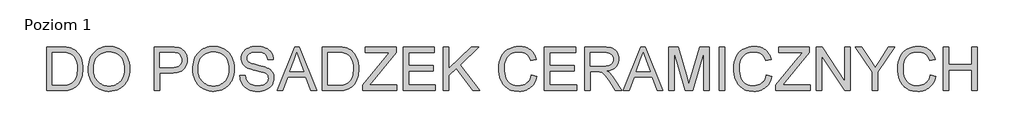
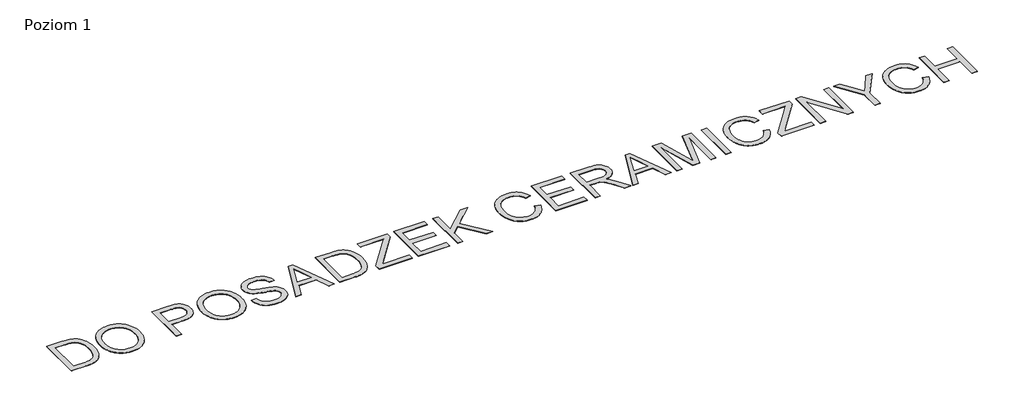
# One storey, part 2 of 4: 1 proxy.
"""IFC4 building model written with IfcOpenShell, lengths in millimetres."""

from ifc_helpers import new_model, si_unit, origin, origin_with_axes, place, context, project, spatial, polyline, outline, extrude, element, save

model = new_model("IFC4")

# Units and contexts
model_context = context("Model", 3, world=origin())
ifc_project = project(units=[si_unit("LENGTHUNIT", "METRE", prefix="MILLI")], contexts=[model_context])

# Site, building, storey
site = spatial("IfcSite", under=ifc_project)
building = spatial("IfcBuilding", under=site)
storey = spatial("IfcBuildingStorey", under=building, Name="Poziom 1", Elevation=0.0)

# Proxy
placement = place(None, origin())
element("IfcBuildingElementProxy", 1, Name="1500 mm Arial", ObjectType="1500 mm Arial", at=placement, inside=storey, context=model_context, shape_type="SweptSolid", body=[
    extrude(outline(polyline([(-126148.713177, 56405.8205168), (-126148.713177, 57881.6414123), (-125639.5982049, 57881.6414123), (-125487.4582213, 57876.3268717), (-125426.7238317, 57869.683696), (-125376.213177, 57860.38325), (-125315.0959603, 57842.8407622), (-125258.5726686, 57819.3982337), (-125206.6433017, 57790.0556643), (-125159.3078598, 57754.8130541), (-125104.6086265, 57702.0279562), (-125057.2506653, 57642.3970093), (-125017.2339763, 57575.9202136), (-124984.5585594, 57502.597569), (-124959.1793762, 57423.1046528), (-124941.0513882, 57338.117042), (-124930.1745955, 57247.6347367), (-124926.5489979, 57151.6577369), (-124929.003595, 57070.081791), (-124936.3673864, 56993.2574046), (-124948.640372, 56921.1845778), (-124965.822552, 56853.8633106), (-124986.8555219, 56791.7214686), (-125010.6808775, 56735.1869172), (-125037.2986189, 56684.2596565), (-125066.708746, 56638.9396866), (-125098.2356816, 56598.6865455), (-125131.2038486, 56562.9597717), (-125165.6132469, 56531.759365), (-125201.4638766, 56505.0853256), (-125239.9154784, 56482.1494799), (-125282.1277933, 56462.1636546), (-125328.1008213, 56445.1278498), (-125377.8345622, 56431.0420653), (-125431.3740547, 56420.0076378), (-125488.7643372, 56412.1259039), (-125550.0054096, 56407.3968636), (-125615.0972721, 56405.8205168), (-126148.713177, 56405.8205168)]), holes=[polyline([(-125964.235565, 56590.2981287), (-125637.7966658, 56590.2981287), (-125566.2080026, 56591.9645525), (-125502.7713043, 56596.9638237), (-125447.4865707, 56605.2959424), (-125400.353802, 56616.9609086), (-125359.5039011, 56631.6659721), (-125323.0677712, 56649.1183829), (-125291.0454123, 56669.318141), (-125263.4368243, 56692.2652463), (-125229.3989935, 56729.2530975), (-125199.3470681, 56772.1184704), (-125173.2810481, 56820.8613648), (-125151.2009335, 56875.4817808), (-125133.6246669, 56936.0923145), (-125121.0701907, 57002.8055623), (-125113.537505, 57075.621524), (-125111.0266098, 57154.5401996), (-125115.9470637, 57261.6417038), (-125130.7084253, 57355.591972), (-125141.7794466, 57397.6353926), (-125155.3106947, 57436.3910042), (-125171.3021699, 57471.8588068), (-125189.7538719, 57504.0388004), (-125231.2455711, 57560.0666688), (-125276.9934067, 57606.0059179), (-125326.9973785, 57641.8565476), (-125381.2574867, 57667.6185578), (-125428.1425438, 57680.5446014), (-125487.3681443, 57689.7774897), (-125558.9342882, 57695.3172227), (-125642.8409755, 57697.1638004), (-125964.235565, 57697.1638004), (-125964.235565, 56590.2981287)])]), origin_with_axes(), (0.0, 0.0, 1.0), 10.0),
    extrude(outline(polyline([(-124742.0713859, 57124.2743414), (-124738.9975097, 57213.3097855), (-124729.775881, 57297.3797373), (-124714.4064999, 57376.4841967), (-124692.8893663, 57450.6231637), (-124665.2244803, 57519.7966384), (-124631.4118418, 57584.0046207), (-124591.4514509, 57643.2471106), (-124545.3433076, 57697.5241082), (-124494.3766382, 57746.0812189), (-124439.8406694, 57788.1640482), (-124381.735401, 57823.772596), (-124320.0608332, 57852.9068624), (-124254.8169659, 57875.5668474), (-124186.003799, 57891.752551), (-124113.6213327, 57901.4639731), (-124037.6695669, 57904.7011138), (-123938.3822389, 57898.6209191), (-123890.6133016, 57891.0206757), (-123844.0941821, 57880.3803349), (-123798.8248804, 57866.6998968), (-123754.8053965, 57849.9793612), (-123712.0357305, 57830.2187284), (-123670.5158822, 57807.4179981), (-123630.8369818, 57781.8980697), (-123593.5901592, 57753.9798422), (-123558.7754146, 57723.6633157), (-123526.3927479, 57690.9484902), (-123496.442159, 57655.8353656), (-123468.923648, 57618.3239421), (-123443.837215, 57578.4142194), (-123421.1828598, 57536.1061978), (-123383.6658064, 57446.1643542), (-123356.8679111, 57350.3675084), (-123340.7891739, 57248.7156602), (-123335.4295949, 57141.2088097), (-123341.0706644, 57032.2832471), (-123357.9938731, 56929.2577253), (-123386.1992209, 56832.1322443), (-123425.6867077, 56740.9068041), (-123449.4276162, 56698.108989), (-123475.5217853, 56657.9909634), (-123503.9692149, 56620.5527273), (-123534.769905, 56585.7942808), (-123567.9238557, 56553.7156238), (-123603.431067, 56524.3167563), (-123641.2915388, 56497.5976784), (-123681.5052712, 56473.5583899), (-123765.9186413, 56433.834451), (-123853.5973013, 56405.460209), (-123944.5412509, 56388.4356637), (-124038.7504904, 56382.7608153), (-124089.9479819, 56384.3287174), (-124139.7717999, 56389.0324236), (-124188.2219442, 56396.8719339), (-124235.2984148, 56407.8472484), (-124281.0012119, 56421.958367), (-124325.3303353, 56439.2052897), (-124368.2857851, 56459.5880166), (-124409.8675613, 56483.1065476), (-124449.5239425, 56509.3358321), (-124486.7032073, 56537.8508194), (-124521.4053557, 56568.6515095), (-124553.6303878, 56601.7379025), (-124583.3783035, 56637.1099983), (-124610.6491028, 56674.767797), (-124635.4427858, 56714.7112985), (-124657.7593523, 56756.9405028), (-124694.645867, 56844.9569513), (-124720.9933775, 56935.5180739), (-124736.8018838, 57028.6238706), (-124742.0713859, 57124.2743414)]), holes=[polyline([(-124557.593774, 57122.4728022), (-124555.2883668, 57059.6047147), (-124548.3721453, 57000.1708112), (-124536.8451095, 56944.1710918), (-124520.7072593, 56891.6055564), (-124499.9585948, 56842.4742051), (-124474.5991159, 56796.7770379), (-124444.6288227, 56754.5140547), (-124410.0477152, 56715.6852556), (-124371.9873851, 56680.8930302), (-124331.5794243, 56650.7397682), (-124288.8238328, 56625.2254696), (-124243.7206105, 56604.3501343), (-124196.2697575, 56588.1137625), (-124146.4712737, 56576.516354), (-124094.3251592, 56569.5579089), (-124039.8314139, 56567.2384272), (-123984.3411923, 56569.5804282), (-123931.3674957, 56576.606431), (-123880.9103242, 56588.3164356), (-123832.9696777, 56604.7104422), (-123787.5455562, 56625.7884506), (-123744.6379598, 56651.5504608), (-123704.2468884, 56681.996473), (-123666.3723421, 56717.1264869), (-123632.044576, 56756.5633055), (-123602.2938454, 56799.9297315), (-123577.1201503, 56847.2257647), (-123556.5234906, 56898.4514053), (-123540.5038665, 56953.6066533), (-123529.0612778, 57012.6915085), (-123522.1957245, 57075.7059711), (-123519.9072068, 57142.650041), (-123523.8255545, 57227.0746708), (-123535.5805977, 57305.9595676), (-123555.1723362, 57379.3047315), (-123582.6007702, 57447.1101623), (-123617.5618899, 57508.4863502), (-123659.7516856, 57562.5437852), (-123709.1701572, 57609.2824673), (-123765.8173048, 57648.7023965), (-123827.9366276, 57679.9928801), (-123893.771625, 57702.3432255), (-123963.3222969, 57715.7534328), (-124036.5886434, 57720.2235019), (-124088.9852844, 57718.0700996), (-124139.5240882, 57711.6098927), (-124188.2050547, 57700.8428812), (-124235.028184, 57685.7690651), (-124279.9934759, 57666.3884444), (-124323.1009306, 57642.7010191), (-124364.350548, 57614.7067892), (-124403.7423281, 57582.4057547), (-124439.8012607, 57545.0716701), (-124471.0523357, 57501.9782899), (-124497.4955529, 57453.1256142), (-124519.1309125, 57398.513643), (-124535.9584144, 57338.1423761), (-124547.9780586, 57272.0118137), (-124555.1898451, 57200.1219558), (-124557.593774, 57122.4728022)])]), origin_with_axes(), (0.0, 0.0, 1.0), 10.0),
    extrude(outline(polyline([(-122505.2803411, 56405.8205168), (-122505.2803411, 57881.6414123), (-121958.3330464, 57881.6414123), (-121830.9642264, 57878.1284109), (-121737.8246508, 57867.5894067), (-121686.4920439, 57856.5212004), (-121639.5056501, 57841.3319732), (-121596.8654697, 57822.0217251), (-121558.5715025, 57798.5904562), (-121524.2184023, 57770.5540027), (-121493.4008227, 57737.428201), (-121466.1187638, 57699.2130512), (-121442.3722255, 57655.9085532), (-121423.1407947, 57608.9446787), (-121409.4040585, 57559.7513995), (-121401.1620167, 57508.3287155), (-121398.4146695, 57454.6766269), (-121400.2696919, 57408.4727767), (-121405.834759, 57364.0817254), (-121415.1098709, 57321.5034729), (-121428.0950275, 57280.7380191), (-121444.7902288, 57241.7853642), (-121465.1954749, 57204.645508), (-121489.3107658, 57169.3184507), (-121517.1361014, 57135.8041922), (-121549.8030735, 57105.2343242), (-121588.443274, 57078.7404387), (-121633.0567029, 57056.3225355), (-121683.64336, 57037.9806147), (-121740.2032455, 57023.7146764), (-121802.7363594, 57013.5247204), (-121871.2427016, 57007.4107468), (-121945.7222721, 57005.3727556), (-122320.8027292, 57005.3727556), (-122320.8027292, 56405.8205168), (-122505.2803411, 56405.8205168)]), holes=[polyline([(-122320.8027292, 57189.8503675), (-121934.913037, 57189.8503675), (-121846.1872325, 57194.0839846), (-121771.3332796, 57206.7848358), (-121710.3511784, 57227.9529212), (-121685.0620721, 57241.7121767), (-121663.2409288, 57257.5882407), (-121628.0883956, 57294.9026209), (-121602.9794433, 57339.1078885), (-121587.9140719, 57390.2040435), (-121582.8922814, 57448.1910858), (-121585.8535615, 57491.2478722), (-121594.7374015, 57531.0618881), (-121609.5438017, 57567.6331334), (-121630.2727618, 57600.9616082), (-121655.8208393, 57629.966389), (-121685.0845914, 57653.5665522), (-121718.064018, 57671.762098), (-121754.7591191, 57684.5530261), (-121825.9199167, 57694.0111068), (-121939.2367311, 57697.1638004), (-122320.8027292, 57697.1638004), (-122320.8027292, 57189.8503675)])]), origin_with_axes(), (0.0, 0.0, 1.0), 10.0),
    extrude(outline(polyline([(-121213.9370576, 57124.2743414), (-121210.8631813, 57213.3097855), (-121201.6415527, 57297.3797373), (-121186.2721715, 57376.4841967), (-121164.755038, 57450.6231637), (-121137.0901519, 57519.7966384), (-121103.2775135, 57584.0046207), (-121063.3171226, 57643.2471106), (-121017.2089792, 57697.5241082), (-120966.2423099, 57746.0812189), (-120911.706341, 57788.1640482), (-120853.6010727, 57823.772596), (-120791.9265049, 57852.9068624), (-120726.6826375, 57875.5668474), (-120657.8694707, 57891.752551), (-120585.4870044, 57901.4639731), (-120509.5352385, 57904.7011138), (-120410.2479105, 57898.6209191), (-120362.4789732, 57891.0206757), (-120315.9598537, 57880.3803349), (-120270.690552, 57866.6998968), (-120226.6710682, 57849.9793612), (-120183.9014021, 57830.2187284), (-120142.3815538, 57807.4179981), (-120102.7026534, 57781.8980697), (-120065.4558309, 57753.9798422), (-120030.6410862, 57723.6633157), (-119998.2584195, 57690.9484902), (-119968.3078306, 57655.8353656), (-119940.7893197, 57618.3239421), (-119915.7028866, 57578.4142194), (-119893.0485314, 57536.1061978), (-119855.531478, 57446.1643542), (-119828.7335827, 57350.3675084), (-119812.6548456, 57248.7156602), (-119807.2952665, 57141.2088097), (-119812.9363361, 57032.2832471), (-119829.8595447, 56929.2577253), (-119858.0648925, 56832.1322443), (-119897.5523794, 56740.9068041), (-119921.2932879, 56698.108989), (-119947.3874569, 56657.9909634), (-119975.8348865, 56620.5527273), (-120006.6355767, 56585.7942808), (-120039.7895274, 56553.7156238), (-120075.2967386, 56524.3167563), (-120113.1572105, 56497.5976784), (-120153.3709428, 56473.5583899), (-120237.784313, 56433.834451), (-120325.4629729, 56405.460209), (-120416.4069226, 56388.4356637), (-120510.616162, 56382.7608153), (-120561.8136536, 56384.3287174), (-120611.6374715, 56389.0324236), (-120660.0876158, 56396.8719339), (-120707.1640865, 56407.8472484), (-120752.8668835, 56421.958367), (-120797.1960069, 56439.2052897), (-120840.1514568, 56459.5880166), (-120881.7332329, 56483.1065476), (-120921.3896141, 56509.3358321), (-120958.5688789, 56537.8508194), (-120993.2710274, 56568.6515095), (-121025.4960594, 56601.7379025), (-121055.2439751, 56637.1099983), (-121082.5147744, 56674.767797), (-121107.3084574, 56714.7112985), (-121129.625024, 56756.9405028), (-121166.5115387, 56844.9569513), (-121192.8590492, 56935.5180739), (-121208.6675555, 57028.6238706), (-121213.9370576, 57124.2743414)]), holes=[polyline([(-121029.4594456, 57122.4728022), (-121027.1540384, 57059.6047147), (-121020.2378169, 57000.1708112), (-121008.7107811, 56944.1710918), (-120992.5729309, 56891.6055564), (-120971.8242664, 56842.4742051), (-120946.4647876, 56796.7770379), (-120916.4944944, 56754.5140547), (-120881.9133868, 56715.6852556), (-120843.8530568, 56680.8930302), (-120803.445096, 56650.7397682), (-120760.6895044, 56625.2254696), (-120715.5862821, 56604.3501343), (-120668.1354291, 56588.1137625), (-120618.3369453, 56576.516354), (-120566.1908308, 56569.5579089), (-120511.6970855, 56567.2384272), (-120456.2068639, 56569.5804282), (-120403.2331673, 56576.606431), (-120352.7759958, 56588.3164356), (-120304.8353493, 56604.7104422), (-120259.4112278, 56625.7884506), (-120216.5036314, 56651.5504608), (-120176.11256, 56681.996473), (-120138.2380137, 56717.1264869), (-120103.9102476, 56756.5633055), (-120074.159517, 56799.9297315), (-120048.9858219, 56847.2257647), (-120028.3891623, 56898.4514053), (-120012.3695381, 56953.6066533), (-120000.9269494, 57012.6915085), (-119994.0613962, 57075.7059711), (-119991.7728785, 57142.650041), (-119995.6912262, 57227.0746708), (-120007.4462693, 57305.9595676), (-120027.0380079, 57379.3047315), (-120054.4664419, 57447.1101623), (-120089.4275616, 57508.4863502), (-120131.6173572, 57562.5437852), (-120181.0358288, 57609.2824673), (-120237.6829764, 57648.7023965), (-120299.8022992, 57679.9928801), (-120365.6372966, 57702.3432255), (-120435.1879685, 57715.7534328), (-120508.454315, 57720.2235019), (-120560.8509561, 57718.0700996), (-120611.3897599, 57711.6098927), (-120660.0707264, 57700.8428812), (-120706.8938556, 57685.7690651), (-120751.8591475, 57666.3884444), (-120794.9666022, 57642.7010191), (-120836.2162196, 57614.7067892), (-120875.6079997, 57582.4057547), (-120911.6669324, 57545.0716701), (-120942.9180073, 57501.9782899), (-120969.3612246, 57453.1256142), (-120990.9965841, 57398.513643), (-121007.824086, 57338.1423761), (-121019.8437302, 57272.0118137), (-121027.0555168, 57200.1219558), (-121029.4594456, 57122.4728022)])]), origin_with_axes(), (0.0, 0.0, 1.0), 10.0),
    extrude(outline(polyline([(-119622.8176546, 56913.1339496), (-119438.3400426, 56913.1339496), (-119429.8953277, 56859.4368225), (-119417.1719573, 56810.7614858), (-119400.1699313, 56767.1079395), (-119378.8892497, 56728.4761838), (-119352.2489891, 56694.0893047), (-119319.1682259, 56663.1703885), (-119279.6469602, 56635.7194353), (-119233.6851919, 56611.736445), (-119182.971864, 56592.2685622), (-119129.1959195, 56578.3629317), (-119072.3573584, 56570.0195534), (-119012.4561807, 56567.2384272), (-118959.4684096, 56569.3439762), (-118909.6783705, 56575.6606229), (-118863.0860635, 56586.1883675), (-118819.6914885, 56600.9272099), (-118780.5643095, 56619.347948), (-118746.7741903, 56640.9213797), (-118718.3211308, 56665.6475049), (-118695.2051312, 56693.5263237), (-118677.3135953, 56723.3530567), (-118664.5339267, 56753.9229247), (-118656.8661256, 56785.2359275), (-118654.3101919, 56817.2920653), (-118656.2243273, 56849.2130876), (-118661.9667334, 56879.0398207), (-118671.5374103, 56906.7722644), (-118684.9363579, 56932.4104188), (-118704.2578656, 56956.0893994), (-118731.5962227, 56977.9443216), (-118766.9514291, 56997.9751853), (-118810.3234848, 57016.1819907), (-118907.7417159, 57045.141733), (-119078.9329764, 57086.6221726), (-119175.033832, 57110.2110762), (-119255.2586236, 57133.2369988), (-119319.6073511, 57155.6999405), (-119368.0800146, 57177.5999011), (-119417.3408516, 57206.987509), (-119459.9134743, 57239.6629258), (-119495.7978828, 57275.6261517), (-119524.9940771, 57314.8771866), (-119547.6146535, 57357.0106841), (-119563.772208, 57401.621298), (-119573.4667407, 57448.7090283), (-119576.6982516, 57498.273875), (-119572.7010865, 57553.2095603), (-119560.7095914, 57606.3211873), (-119540.7237661, 57657.6087558), (-119512.7436107, 57707.0722659), (-119477.0843946, 57752.6962456), (-119434.0613871, 57792.465223), (-119383.6745882, 57826.379198), (-119325.9239979, 57854.4381707), (-119262.7575304, 57876.4282083), (-119196.1231, 57892.135378), (-119126.0207067, 57901.5596799), (-119052.4503505, 57904.7011138), (-118972.19178, 57901.4133048), (-118896.7973654, 57891.5498778), (-118826.2671065, 57875.1108328), (-118760.6010035, 57852.0961698), (-118701.0150951, 57822.7085619), (-118648.7254204, 57787.1506824), (-118603.7319794, 57745.4225311), (-118566.0347721, 57697.5241082), (-118535.9265486, 57644.8516065), (-118513.700059, 57588.8012188), (-118499.3553032, 57529.3729451), (-118492.8922814, 57466.5667855), (-118677.3698934, 57466.5667855), (-118689.7104368, 57525.4320781), (-118711.2388299, 57576.6408293), (-118741.9550729, 57620.1930389), (-118781.8591658, 57656.0887071), (-118831.6942433, 57684.1476798), (-118892.2034405, 57704.1898032), (-118963.3867573, 57716.2150772), (-119045.2441937, 57720.2235019), (-119129.713862, 57716.2601157), (-119201.8880254, 57704.3699571), (-119261.7666838, 57684.5530261), (-119287.0951987, 57671.672021), (-119309.3498374, 57656.8093228), (-119345.6058134, 57623.4583287), (-119371.5029391, 57586.8195257), (-119387.0412145, 57546.8929136), (-119392.2206396, 57503.6784925), (-119388.5500036, 57466.4992277), (-119377.5380953, 57432.7879258), (-119359.1849149, 57402.5445869), (-119333.4904624, 57375.7692108), (-119293.0459078, 57350.4125469), (-119229.3614979, 57324.7856521), (-119142.4372325, 57298.8885264), (-119032.2731117, 57272.7211698), (-118920.5326441, 57247.2068712), (-118828.8793383, 57223.2689193), (-118757.3131944, 57200.9073143), (-118705.8342124, 57180.122056), (-118649.2771418, 57148.6176396), (-118600.6693628, 57113.1948755), (-118560.0108755, 57073.8537636), (-118527.3016798, 57030.5943041), (-118502.1589486, 56983.6416893), (-118484.1998549, 56933.2211115), (-118473.4243987, 56879.3325708), (-118469.8325799, 56821.9760672), (-118473.9648604, 56764.2705153), (-118486.3617019, 56708.2539065), (-118507.0231044, 56653.9262406), (-118535.9490678, 56601.2875177), (-118572.6329094, 56552.375729), (-118616.5679461, 56509.2288657), (-118667.754178, 56471.8469277), (-118726.1916051, 56440.2299151), (-118790.1800248, 56415.0871839), (-118858.0192346, 56397.1280903), (-118929.7092343, 56386.352634), (-119005.250024, 56382.7608153), (-119099.6168981, 56386.6341245), (-119185.9894421, 56398.2540522), (-119264.367656, 56417.6205984), (-119334.7515398, 56444.7337631), (-119397.5689591, 56479.6385847), (-119453.2477793, 56522.3801017), (-119501.7880006, 56572.9583141), (-119543.1896229, 56631.373222), (-119576.5406169, 56695.7332092), (-119600.9289535, 56764.1466595), (-119616.3546328, 56836.613573), (-119622.8176546, 56913.1339496)])), origin_with_axes(), (0.0, 0.0, 1.0), 10.0),
    extrude(outline(polyline([(-118364.9829997, 56405.8205168), (-117775.8796882, 57881.6414123), (-117618.7854717, 57881.6414123), (-117029.6821602, 56405.8205168), (-117224.6086993, 56405.8205168), (-117393.5930743, 56867.0145466), (-118001.4323934, 56867.0145466), (-118170.0564605, 56405.8205168), (-118364.9829997, 56405.8205168)]), holes=[polyline([(-117933.6945202, 57051.4921586), (-117460.9706396, 57051.4921586), (-117593.9242311, 57414.3221493), (-117697.3325799, 57697.1638004), (-117789.2110781, 57446.0292388), (-117933.6945202, 57051.4921586)])]), origin_with_axes(), (0.0, 0.0, 1.0), 10.0),
    extrude(outline(polyline([(-116832.593774, 56405.8205168), (-116832.593774, 57881.6414123), (-116323.478802, 57881.6414123), (-116171.3388183, 57876.3268717), (-116110.6044287, 57869.683696), (-116060.093774, 57860.38325), (-115998.9765573, 57842.8407622), (-115942.4532656, 57819.3982337), (-115890.5238987, 57790.0556643), (-115843.1884568, 57754.8130541), (-115788.4892235, 57702.0279562), (-115741.1312623, 57642.3970093), (-115701.1145733, 57575.9202136), (-115668.4391564, 57502.597569), (-115643.0599733, 57423.1046528), (-115624.9319853, 57338.117042), (-115614.0551925, 57247.6347367), (-115610.4295949, 57151.6577369), (-115612.884192, 57070.081791), (-115620.2479834, 56993.2574046), (-115632.5209691, 56921.1845778), (-115649.703149, 56853.8633106), (-115670.7361189, 56791.7214686), (-115694.5614745, 56735.1869172), (-115721.1792159, 56684.2596565), (-115750.589343, 56638.9396866), (-115782.1162786, 56598.6865455), (-115815.0844456, 56562.9597717), (-115849.4938439, 56531.759365), (-115885.3444736, 56505.0853256), (-115923.7960755, 56482.1494799), (-115966.0083903, 56462.1636546), (-116011.9814183, 56445.1278498), (-116061.7151592, 56431.0420653), (-116115.2546517, 56420.0076378), (-116172.6449342, 56412.1259039), (-116233.8860067, 56407.3968636), (-116298.9778691, 56405.8205168), (-116832.593774, 56405.8205168)]), holes=[polyline([(-116648.116162, 56590.2981287), (-116321.6772628, 56590.2981287), (-116250.0885997, 56591.9645525), (-116186.6519013, 56596.9638237), (-116131.3671677, 56605.2959424), (-116084.234399, 56616.9609086), (-116043.3844981, 56631.6659721), (-116006.9483682, 56649.1183829), (-115974.9260093, 56669.318141), (-115947.3174214, 56692.2652463), (-115913.2795905, 56729.2530975), (-115883.2276651, 56772.1184704), (-115857.1616451, 56820.8613648), (-115835.0815305, 56875.4817808), (-115817.5052639, 56936.0923145), (-115804.9507877, 57002.8055623), (-115797.418102, 57075.621524), (-115794.9072068, 57154.5401996), (-115799.8276607, 57261.6417038), (-115814.5890223, 57355.591972), (-115825.6600436, 57397.6353926), (-115839.1912918, 57436.3910042), (-115855.1827669, 57471.8588068), (-115873.6344689, 57504.0388004), (-115915.1261682, 57560.0666688), (-115960.8740037, 57606.0059179), (-116010.8779755, 57641.8565476), (-116065.1380837, 57667.6185578), (-116112.0231408, 57680.5446014), (-116171.2487413, 57689.7774897), (-116242.8148852, 57695.3172227), (-116326.7215725, 57697.1638004), (-116648.116162, 57697.1638004), (-116648.116162, 56590.2981287)])]), origin_with_axes(), (0.0, 0.0, 1.0), 10.0),
    extrude(outline(polyline([(-115472.0713859, 56405.8205168), (-115472.0713859, 56597.1439776), (-114717.2264699, 57521.3335765), (-114573.8239512, 57697.1638004), (-115379.8325799, 57697.1638004), (-115379.8325799, 57881.6414123), (-114342.1460128, 57881.6414123), (-114342.1460128, 57697.1638004), (-115168.3318803, 56685.7797052), (-115246.1583729, 56590.2981287), (-114319.0863113, 56590.2981287), (-114319.0863113, 56405.8205168), (-115472.0713859, 56405.8205168)])), origin_with_axes(), (0.0, 0.0, 1.0), 10.0),
    extrude(outline(polyline([(-114111.5489979, 56405.8205168), (-114111.5489979, 57881.6414123), (-113050.8027292, 57881.6414123), (-113050.8027292, 57697.1638004), (-113927.0713859, 57697.1638004), (-113927.0713859, 57259.029472), (-113096.9221322, 57259.029472), (-113096.9221322, 57074.5518601), (-113927.0713859, 57074.5518601), (-113927.0713859, 56590.2981287), (-113027.7430277, 56590.2981287), (-113027.7430277, 56405.8205168), (-114111.5489979, 56405.8205168)])), origin_with_axes(), (0.0, 0.0, 1.0), 10.0),
    extrude(outline(polyline([(-112751.0266098, 56405.8205168), (-112751.0266098, 57881.6414123), (-112566.5489979, 57881.6414123), (-112566.5489979, 57159.2242015), (-111809.9025426, 57881.6414123), (-111551.9221322, 57881.6414123), (-112187.1448467, 57274.8830168), (-111528.8624307, 56405.8205168), (-111754.4151359, 56405.8205168), (-112317.9365911, 57150.2165056), (-112566.5489979, 56913.1339496), (-112566.5489979, 56405.8205168), (-112751.0266098, 56405.8205168)])), origin_with_axes(), (0.0, 0.0, 1.0), 10.0),
    extrude(outline(polyline([(-109776.3251173, 56930.4287257), (-109591.8475053, 56882.8680914), (-109608.5849303, 56823.6959741), (-109628.3511929, 56768.1438246), (-109651.1462934, 56716.2116428), (-109676.9702315, 56667.8994289), (-109705.8230074, 56623.2071827), (-109737.7046211, 56582.1349043), (-109772.6150725, 56544.6825937), (-109810.5543617, 56510.8502509), (-109851.1115124, 56480.8292895), (-109893.8755487, 56454.8111228), (-109938.8464705, 56432.7957511), (-109986.0242777, 56414.7831742), (-110035.4089705, 56400.7733922), (-110087.0005487, 56390.766405), (-110140.7990124, 56384.7622127), (-110196.8043617, 56382.7608153), (-110309.2992238, 56388.8184908), (-110361.4171892, 56396.3905852), (-110410.7821777, 56406.9915173), (-110457.394189, 56420.6212871), (-110501.2532233, 56437.2798947), (-110542.3592805, 56456.9673401), (-110580.7123607, 56479.6836231), (-110616.5855096, 56505.2711093), (-110650.251773, 56533.5721638), (-110681.711151, 56564.5867868), (-110710.9636434, 56598.3149781), (-110738.0092503, 56634.7567378), (-110762.8479717, 56673.9120659), (-110785.4798077, 56715.7809624), (-110805.9047581, 56760.3634272), (-110839.7173966, 56853.9308684), (-110863.8692812, 56950.8761954), (-110878.360412, 57051.1994085), (-110883.1907889, 57154.9005075), (-110877.7298733, 57266.168071), (-110861.3471264, 57370.0943624), (-110834.0425482, 57466.6793817), (-110816.2945724, 57512.2189142), (-110795.8161387, 57555.9231287), (-110772.82118, 57597.4232727), (-110747.5236291, 57636.3505935), (-110719.9234859, 57672.7050911), (-110690.0207504, 57706.4867656), (-110657.8154227, 57737.695617), (-110623.3075027, 57766.3316452), (-110586.4969904, 57792.3948503), (-110547.3838859, 57815.8852323), (-110464.828353, 57854.7421804), (-110378.219357, 57882.4971434), (-110287.5568978, 57899.1501212), (-110192.8409755, 57904.7011138), (-110138.9890285, 57902.9052044), (-110087.3270777, 57897.5174763), (-110037.8551229, 57888.5379295), (-109990.5731641, 57875.9665639), (-109945.4812015, 57859.8033796), (-109902.5792349, 57840.0483765), (-109861.8672643, 57816.7015547), (-109823.3452898, 57789.7629142), (-109787.3398404, 57759.5646137), (-109754.177445, 57726.438812), (-109723.8581036, 57690.3855092), (-109696.3818162, 57651.4047052), (-109671.7485828, 57609.4964001), (-109649.9584035, 57564.6605938), (-109631.0112781, 57516.8972863), (-109614.9072068, 57466.2064776), (-109799.3848187, 57422.2489216), (-109828.434638, 57494.7946525), (-109863.3394596, 57556.7788598), (-109904.0992835, 57608.2015438), (-109950.7141098, 57649.0627043), (-110003.4541693, 57680.1955532), (-110062.5896928, 57702.4333025), (-110128.1206805, 57715.775952), (-110200.0471322, 57720.2235019), (-110282.8053382, 57715.2917884), (-110358.492503, 57700.4966479), (-110427.1086265, 57675.8380803), (-110488.6537087, 57641.3160858), (-110542.3508358, 57598.4844918), (-110587.4230942, 57548.8971259), (-110623.8704837, 57492.5539881), (-110651.6930044, 57429.4550784), (-110672.2643299, 57362.4603401), (-110686.9581338, 57294.4297169), (-110695.7744162, 57225.3632086), (-110698.713177, 57155.2608153), (-110695.2339544, 57067.1655494), (-110684.7962868, 56984.835209), (-110667.4001741, 56908.2697938), (-110643.0456163, 56837.4693041), (-110611.3385268, 56773.8411922), (-110571.8848187, 56718.7929107), (-110524.6844923, 56672.3244595), (-110469.7375473, 56634.4358386), (-110409.7125138, 56605.0369711), (-110347.2779216, 56584.0377801), (-110282.4337708, 56571.4382655), (-110215.1800613, 56567.2384272), (-110134.977789, 56572.9583141), (-110061.1935, 56590.1179748), (-110026.7080992, 56602.9877203), (-109993.8271943, 56618.7174093), (-109962.5507852, 56637.3070417), (-109932.8788719, 56658.7566175), (-109905.1717623, 56683.0210984), (-109879.7897642, 56710.0554457), (-109856.7328776, 56739.8596595), (-109836.0011026, 56772.4337397), (-109817.594439, 56807.7776865), (-109801.5128869, 56845.8914998), (-109776.3251173, 56930.4287257)])), origin_with_axes(), (0.0, 0.0, 1.0), 10.0),
    extrude(outline(polyline([(-109338.1907889, 56405.8205168), (-109338.1907889, 57881.6414123), (-108277.4445202, 57881.6414123), (-108277.4445202, 57697.1638004), (-109153.713177, 57697.1638004), (-109153.713177, 57259.029472), (-108323.5639232, 57259.029472), (-108323.5639232, 57074.5518601), (-109153.713177, 57074.5518601), (-109153.713177, 56590.2981287), (-108254.3848187, 56590.2981287), (-108254.3848187, 56405.8205168), (-109338.1907889, 56405.8205168)])), origin_with_axes(), (0.0, 0.0, 1.0), 10.0),
    extrude(outline(polyline([(-107977.6684008, 56405.8205168), (-107977.6684008, 57881.6414123), (-107341.7250706, 57881.6414123), (-107250.4433323, 57879.1530363), (-107170.804041, 57871.6879084), (-107102.8071966, 57859.2460284), (-107046.4527992, 57841.8273965), (-106998.4642993, 57818.0921178), (-106955.5651476, 57786.7002976), (-106917.7553441, 57747.6519359), (-106885.0348887, 57700.9470327), (-106858.6310801, 57649.0964832), (-106839.7712168, 57594.6111826), (-106828.4552989, 57537.491131), (-106824.6833262, 57477.7363284), (-106826.2455985, 57439.0595341), (-106830.9324152, 57401.9365674), (-106838.7437765, 57366.3674282), (-106849.6796823, 57332.3521166), (-106863.7401326, 57299.8906325), (-106880.9251275, 57268.982976), (-106901.2346668, 57239.629147), (-106924.6687507, 57211.8291455), (-106951.3681243, 57186.0389862), (-106981.4735329, 57162.7146837), (-107014.9849765, 57141.8562378), (-107051.9024552, 57123.4636488), (-107092.2259688, 57107.5369165), (-107135.9555175, 57094.0760409), (-107233.6327199, 57074.5518601), (-107172.8307726, 57034.8279212), (-107128.7831396, 56995.644444), (-107053.2085711, 56906.0178699), (-106979.2553878, 56805.7622146), (-106733.1651359, 56405.8205168), (-106947.5482982, 56405.8205168), (-107139.5923747, 56711.7218694), (-107216.4280207, 56828.4616082), (-107278.3108915, 56914.2148731), (-107329.8799505, 56973.2603197), (-107353.5364119, 56994.372107), (-107375.7741611, 57009.8766035), (-107419.2362938, 57031.3599583), (-107463.5091191, 57045.0066175), (-107506.6559825, 57049.8707733), (-107570.5205464, 57051.4921586), (-107793.1907889, 57051.4921586), (-107793.1907889, 56405.8205168), (-107977.6684008, 56405.8205168)]), holes=[polyline([(-107793.1907889, 57235.9697705), (-107380.278009, 57235.9697705), (-107317.663263, 57237.6024154), (-107261.6916926, 57242.5003501), (-107212.3632979, 57250.6635745), (-107169.678079, 57262.0920886), (-107132.6789681, 57277.1124215), (-107100.4088976, 57296.0511021), (-107072.8678674, 57318.9081305), (-107050.0558775, 57345.6835065), (-107032.1643415, 57375.0598548), (-107019.384673, 57405.7197997), (-107011.7168719, 57437.6633412), (-107009.1609382, 57470.8904795), (-107014.0363536, 57518.0682867), (-107028.6625998, 57560.8773615), (-107053.0396768, 57599.3177037), (-107087.1675846, 57633.3893134), (-107108.0851434, 57648.3364588), (-107131.8344966, 57661.2906515), (-107187.8285862, 57681.2201786), (-107255.1498534, 57693.1778949), (-107333.7982982, 57697.1638004), (-107793.1907889, 57697.1638004), (-107793.1907889, 57235.9697705)])]), origin_with_axes(), (0.0, 0.0, 1.0), 10.0),
    extrude(outline(polyline([(-106673.714343, 56405.8205168), (-106084.6110314, 57881.6414123), (-105927.516815, 57881.6414123), (-105338.4135035, 56405.8205168), (-105533.3400426, 56405.8205168), (-105702.3244176, 56867.0145466), (-106310.1637367, 56867.0145466), (-106478.7878038, 56405.8205168), (-106673.714343, 56405.8205168)]), holes=[polyline([(-106242.4258635, 57051.4921586), (-105769.7019829, 57051.4921586), (-105902.6555743, 57414.3221493), (-106006.0639232, 57697.1638004), (-106097.9424214, 57446.0292388), (-106242.4258635, 57051.4921586)])]), origin_with_axes(), (0.0, 0.0, 1.0), 10.0),
    extrude(outline(polyline([(-105141.3251173, 56405.8205168), (-105141.3251173, 57881.6414123), (-104823.8939139, 57881.6414123), (-104521.9559475, 56841.4326903), (-104461.0639232, 56624.1670653), (-104395.1275893, 56859.4480821), (-104098.2339326, 57881.6414123), (-103780.8027292, 57881.6414123), (-103780.8027292, 56405.8205168), (-103965.2803411, 56405.8205168), (-103965.2803411, 57697.1638004), (-104336.0371042, 56405.8205168), (-104586.0907423, 56405.8205168), (-104956.8475053, 57697.1638004), (-104956.8475053, 56405.8205168), (-105141.3251173, 56405.8205168)])), origin_with_axes(), (0.0, 0.0, 1.0), 10.0),
    extrude(outline(polyline([(-103434.9072068, 56405.8205168), (-103434.9072068, 57881.6414123), (-103250.4295949, 57881.6414123), (-103250.4295949, 56405.8205168), (-103434.9072068, 56405.8205168)])), origin_with_axes(), (0.0, 0.0, 1.0), 10.0),
    extrude(outline(polyline([(-101843.7878038, 56930.4287257), (-101659.3101919, 56882.8680914), (-101676.0476168, 56823.6959741), (-101695.8138795, 56768.1438246), (-101718.6089799, 56716.2116428), (-101744.4329181, 56667.8994289), (-101773.285694, 56623.2071827), (-101805.1673077, 56582.1349043), (-101840.0777591, 56544.6825937), (-101878.0170482, 56510.8502509), (-101918.574199, 56480.8292895), (-101961.3382353, 56454.8111228), (-102006.309157, 56432.7957511), (-102053.4869643, 56414.7831742), (-102102.871657, 56400.7733922), (-102154.4632353, 56390.766405), (-102208.261699, 56384.7622127), (-102264.2670482, 56382.7608153), (-102376.7619103, 56388.8184908), (-102428.8798758, 56396.3905852), (-102478.2448642, 56406.9915173), (-102524.8568756, 56420.6212871), (-102568.7159099, 56437.2798947), (-102609.8219671, 56456.9673401), (-102648.1750473, 56479.6836231), (-102684.0481962, 56505.2711093), (-102717.7144596, 56533.5721638), (-102749.1738375, 56564.5867868), (-102778.4263299, 56598.3149781), (-102805.4719369, 56634.7567378), (-102830.3106583, 56673.9120659), (-102852.9424942, 56715.7809624), (-102873.3674447, 56760.3634272), (-102907.1800832, 56853.9308684), (-102931.3319678, 56950.8761954), (-102945.8230985, 57051.1994085), (-102950.6534755, 57154.9005075), (-102945.1925598, 57266.168071), (-102928.8098129, 57370.0943624), (-102901.5052347, 57466.6793817), (-102883.7572589, 57512.2189142), (-102863.2788253, 57555.9231287), (-102840.2838666, 57597.4232727), (-102814.9863157, 57636.3505935), (-102787.3861725, 57672.7050911), (-102757.483437, 57706.4867656), (-102725.2781093, 57737.695617), (-102690.7701893, 57766.3316452), (-102653.959677, 57792.3948503), (-102614.8465725, 57815.8852323), (-102532.2910396, 57854.7421804), (-102445.6820436, 57882.4971434), (-102355.0195844, 57899.1501212), (-102260.303662, 57904.7011138), (-102206.4517151, 57902.9052044), (-102154.7897642, 57897.5174763), (-102105.3178094, 57888.5379295), (-102058.0358507, 57875.9665639), (-102012.943888, 57859.8033796), (-101970.0419214, 57840.0483765), (-101929.3299509, 57816.7015547), (-101890.8079764, 57789.7629142), (-101854.802527, 57759.5646137), (-101821.6401315, 57726.438812), (-101791.3207901, 57690.3855092), (-101763.8445028, 57651.4047052), (-101739.2112694, 57609.4964001), (-101717.42109, 57564.6605938), (-101698.4739647, 57516.8972863), (-101682.3698934, 57466.2064776), (-101866.8475053, 57422.2489216), (-101895.8973246, 57494.7946525), (-101930.8021462, 57556.7788598), (-101971.5619701, 57608.2015438), (-102018.1767964, 57649.0627043), (-102070.9168558, 57680.1955532), (-102130.0523794, 57702.4333025), (-102195.583367, 57715.775952), (-102267.5098187, 57720.2235019), (-102350.2680248, 57715.2917884), (-102425.9551896, 57700.4966479), (-102494.571313, 57675.8380803), (-102556.1163952, 57641.3160858), (-102609.8135224, 57598.4844918), (-102654.8857807, 57548.8971259), (-102691.3331703, 57492.5539881), (-102719.155691, 57429.4550784), (-102739.7270165, 57362.4603401), (-102754.4208204, 57294.4297169), (-102763.2371027, 57225.3632086), (-102766.1758635, 57155.2608153), (-102762.696641, 57067.1655494), (-102752.2589734, 56984.835209), (-102734.8628607, 56908.2697938), (-102710.5083029, 56837.4693041), (-102678.8012133, 56773.8411922), (-102639.3475053, 56718.7929107), (-102592.1471788, 56672.3244595), (-102537.2002339, 56634.4358386), (-102477.1752003, 56605.0369711), (-102414.7406082, 56584.0377801), (-102349.8964573, 56571.4382655), (-102282.6427479, 56567.2384272), (-102202.4404755, 56572.9583141), (-102128.6561865, 56590.1179748), (-102094.1707858, 56602.9877203), (-102061.2898808, 56618.7174093), (-102030.0134717, 56637.3070417), (-102000.3415585, 56658.7566175), (-101972.6344489, 56683.0210984), (-101947.2524508, 56710.0554457), (-101924.1955642, 56739.8596595), (-101903.4637891, 56772.4337397), (-101885.0571256, 56807.7776865), (-101868.9755735, 56845.8914998), (-101843.7878038, 56930.4287257)])), origin_with_axes(), (0.0, 0.0, 1.0), 10.0),
    extrude(outline(polyline([(-101520.9519829, 56405.8205168), (-101520.9519829, 56597.1439776), (-100766.1070669, 57521.3335765), (-100622.7045482, 57697.1638004), (-101428.713177, 57697.1638004), (-101428.713177, 57881.6414123), (-100391.0266098, 57881.6414123), (-100391.0266098, 57697.1638004), (-101217.2124773, 56685.7797052), (-101295.0389699, 56590.2981287), (-100367.9669083, 56590.2981287), (-100367.9669083, 56405.8205168), (-101520.9519829, 56405.8205168)])), origin_with_axes(), (0.0, 0.0, 1.0), 10.0),
    extrude(outline(polyline([(-100160.4295949, 56405.8205168), (-100160.4295949, 57881.6414123), (-99962.9809008, 57881.6414123), (-99191.9221322, 56712.4424851), (-99191.9221322, 57881.6414123), (-99007.4445202, 57881.6414123), (-99007.4445202, 56405.8205168), (-99204.8932143, 56405.8205168), (-99975.9519829, 57575.3797519), (-99975.9519829, 56405.8205168), (-100160.4295949, 56405.8205168)])), origin_with_axes(), (0.0, 0.0, 1.0), 10.0),
    extrude(outline(polyline([(-98269.5340725, 56405.8205168), (-98269.5340725, 57030.9546119), (-98846.0266098, 57881.6414123), (-98628.400677, 57881.6414123), (-98320.6977852, 57427.2932313), (-98163.2432609, 57195.6152929), (-98005.4284288, 57443.8673918), (-97726.1898561, 57881.6414123), (-97508.5639232, 57881.6414123), (-98085.0564605, 57030.9546119), (-98085.0564605, 56405.8205168), (-98269.5340725, 56405.8205168)])), origin_with_axes(), (0.0, 0.0, 1.0), 10.0),
    extrude(outline(polyline([(-96309.4594456, 56930.4287257), (-96124.9818337, 56882.8680914), (-96141.7192586, 56823.6959741), (-96161.4855213, 56768.1438246), (-96184.2806217, 56716.2116428), (-96210.1045599, 56667.8994289), (-96238.9573358, 56623.2071827), (-96270.8389495, 56582.1349043), (-96305.7494009, 56544.6825937), (-96343.68869, 56510.8502509), (-96384.2458408, 56480.8292895), (-96427.0098771, 56454.8111228), (-96471.9807988, 56432.7957511), (-96519.1586061, 56414.7831742), (-96568.5432988, 56400.7733922), (-96620.1348771, 56390.766405), (-96673.9333408, 56384.7622127), (-96729.93869, 56382.7608153), (-96842.4335521, 56388.8184908), (-96894.5515176, 56396.3905852), (-96943.916506, 56406.9915173), (-96990.5285174, 56420.6212871), (-97034.3875517, 56437.2798947), (-97075.4936089, 56456.9673401), (-97113.8466891, 56479.6836231), (-97149.719838, 56505.2711093), (-97183.3861014, 56533.5721638), (-97214.8454793, 56564.5867868), (-97244.0979717, 56598.3149781), (-97271.1435787, 56634.7567378), (-97295.9823001, 56673.9120659), (-97318.614136, 56715.7809624), (-97339.0390865, 56760.3634272), (-97372.8517249, 56853.9308684), (-97397.0036096, 56950.8761954), (-97411.4947403, 57051.1994085), (-97416.3251173, 57154.9005075), (-97410.8642016, 57266.168071), (-97394.4814547, 57370.0943624), (-97367.1768765, 57466.6793817), (-97349.4289007, 57512.2189142), (-97328.9504671, 57555.9231287), (-97305.9555084, 57597.4232727), (-97280.6579575, 57636.3505935), (-97253.0578142, 57672.7050911), (-97223.1550788, 57706.4867656), (-97190.949751, 57737.695617), (-97156.4418311, 57766.3316452), (-97119.6313188, 57792.3948503), (-97080.5182143, 57815.8852323), (-96997.9626814, 57854.7421804), (-96911.3536854, 57882.4971434), (-96820.6912262, 57899.1501212), (-96725.9753038, 57904.7011138), (-96672.1233569, 57902.9052044), (-96620.461406, 57897.5174763), (-96570.9894512, 57888.5379295), (-96523.7074925, 57875.9665639), (-96478.6155298, 57859.8033796), (-96435.7135632, 57840.0483765), (-96395.0015927, 57816.7015547), (-96356.4796182, 57789.7629142), (-96320.4741688, 57759.5646137), (-96287.3117733, 57726.438812), (-96256.9924319, 57690.3855092), (-96229.5161445, 57651.4047052), (-96204.8829112, 57609.4964001), (-96183.0927318, 57564.6605938), (-96164.1456065, 57516.8972863), (-96148.0415352, 57466.2064776), (-96332.5191471, 57422.2489216), (-96361.5689664, 57494.7946525), (-96396.473788, 57556.7788598), (-96437.2336119, 57608.2015438), (-96483.8484382, 57649.0627043), (-96536.5884976, 57680.1955532), (-96595.7240212, 57702.4333025), (-96661.2550088, 57715.775952), (-96733.1814605, 57720.2235019), (-96815.9396666, 57715.2917884), (-96891.6268313, 57700.4966479), (-96960.2429548, 57675.8380803), (-97021.788037, 57641.3160858), (-97075.4851642, 57598.4844918), (-97120.5574225, 57548.8971259), (-97157.004812, 57492.5539881), (-97184.8273327, 57429.4550784), (-97205.3986582, 57362.4603401), (-97220.0924622, 57294.4297169), (-97228.9087445, 57225.3632086), (-97231.8475053, 57155.2608153), (-97228.3682828, 57067.1655494), (-97217.9306152, 56984.835209), (-97200.5345025, 56908.2697938), (-97176.1799447, 56837.4693041), (-97144.4728551, 56773.8411922), (-97105.0191471, 56718.7929107), (-97057.8188206, 56672.3244595), (-97002.8718757, 56634.4358386), (-96942.8468421, 56605.0369711), (-96880.41225, 56584.0377801), (-96815.5680991, 56571.4382655), (-96748.3143896, 56567.2384272), (-96668.1121173, 56572.9583141), (-96594.3278283, 56590.1179748), (-96559.8424276, 56602.9877203), (-96526.9615226, 56618.7174093), (-96495.6851135, 56637.3070417), (-96466.0132003, 56658.7566175), (-96438.3060907, 56683.0210984), (-96412.9240926, 56710.0554457), (-96389.867206, 56739.8596595), (-96369.1354309, 56772.4337397), (-96350.7287673, 56807.7776865), (-96334.6472153, 56845.8914998), (-96309.4594456, 56930.4287257)])), origin_with_axes(), (0.0, 0.0, 1.0), 10.0),
    extrude(outline(polyline([(-95871.3251173, 56405.8205168), (-95871.3251173, 57881.6414123), (-95686.8475053, 57881.6414123), (-95686.8475053, 57282.0891735), (-94902.8176546, 57282.0891735), (-94902.8176546, 57881.6414123), (-94718.3400426, 57881.6414123), (-94718.3400426, 56405.8205168), (-94902.8176546, 56405.8205168), (-94902.8176546, 57097.6115616), (-95686.8475053, 57097.6115616), (-95686.8475053, 56405.8205168), (-95871.3251173, 56405.8205168)])), origin_with_axes(), (0.0, 0.0, 1.0), 10.0),
])

save(model, "model.ifc")
